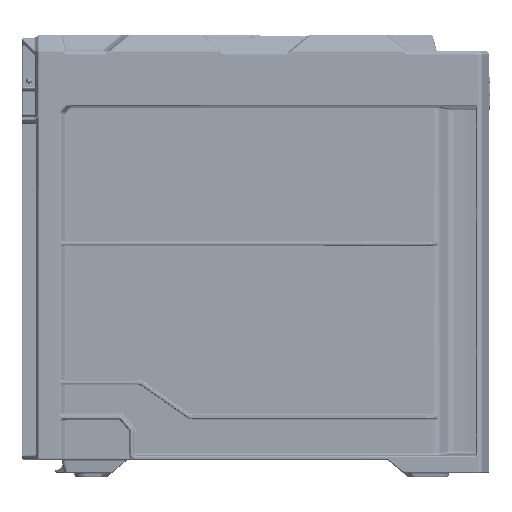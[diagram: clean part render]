
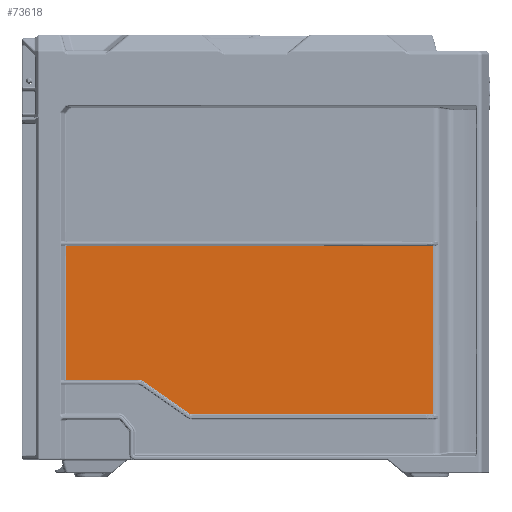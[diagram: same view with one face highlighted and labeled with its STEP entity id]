
A CAD part, left-side view. The second image highlights one B-rep face of the part: STEP entity #73618.
In plain terms, the highlighted planar face has unit normal (-1, 0, 0).
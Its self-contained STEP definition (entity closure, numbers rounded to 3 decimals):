
#48047=ELLIPSE('',#274290,7.503,7.5);
#48048=ELLIPSE('',#274291,4.502,4.5);
#53485=PLANE('',#274292);
#59514=FACE_OUTER_BOUND('',#100864,.T.);
#73618=ADVANCED_FACE('',(#59514),#53485,.T.);
#100864=EDGE_LOOP('',(#153531,#153532,#153533,#153534,#153535,#153536,#153537,
#153538));
#114854=LINE('',#417470,#127269);
#114855=LINE('',#417474,#127270);
#114856=LINE('',#417476,#127271);
#114857=LINE('',#417478,#127272);
#114858=LINE('',#417482,#127273);
#114859=LINE('',#417486,#127274);
#127269=VECTOR('',#304786,1.);
#127270=VECTOR('',#304791,1.);
#127271=VECTOR('',#304792,1.);
#127272=VECTOR('',#304793,1.);
#127273=VECTOR('',#304796,1.);
#127274=VECTOR('',#304799,1.);
#153531=ORIENTED_EDGE('',*,*,#234398,.T.);
#153532=ORIENTED_EDGE('',*,*,#234400,.T.);
#153533=ORIENTED_EDGE('',*,*,#234401,.T.);
#153534=ORIENTED_EDGE('',*,*,#234402,.T.);
#153535=ORIENTED_EDGE('',*,*,#234403,.T.);
#153536=ORIENTED_EDGE('',*,*,#234404,.T.);
#153537=ORIENTED_EDGE('',*,*,#234405,.T.);
#153538=ORIENTED_EDGE('',*,*,#234406,.T.);
#210557=VERTEX_POINT('',#417469);
#210558=VERTEX_POINT('',#417471);
#210559=VERTEX_POINT('',#417475);
#210560=VERTEX_POINT('',#417477);
#210561=VERTEX_POINT('',#417479);
#210562=VERTEX_POINT('',#417481);
#210563=VERTEX_POINT('',#417483);
#210564=VERTEX_POINT('',#417485);
#234398=EDGE_CURVE('',#210558,#210557,#114854,.T.);
#234400=EDGE_CURVE('',#210557,#210559,#114855,.T.);
#234401=EDGE_CURVE('',#210559,#210560,#114856,.T.);
#234402=EDGE_CURVE('',#210560,#210561,#114857,.T.);
#234403=EDGE_CURVE('',#210561,#210562,#48047,.T.);
#234404=EDGE_CURVE('',#210562,#210563,#114858,.T.);
#234405=EDGE_CURVE('',#210563,#210564,#48048,.T.);
#234406=EDGE_CURVE('',#210564,#210558,#114859,.T.);
#274290=AXIS2_PLACEMENT_3D('',#417480,#304794,#304795);
#274291=AXIS2_PLACEMENT_3D('',#417484,#304797,#304798);
#274292=AXIS2_PLACEMENT_3D('',#417487,#304800,#304801);
#304786=DIRECTION('',(0.,0.,1.));
#304791=DIRECTION('',(0.,1.,0.));
#304792=DIRECTION('',(0.,0.,-1.));
#304793=DIRECTION('',(0.,-1.,0.));
#304794=DIRECTION('',(1.,0.,0.));
#304795=DIRECTION('',(0.,-0.301,0.954));
#304796=DIRECTION('',(0.,-0.819,-0.574));
#304797=DIRECTION('',(-1.,0.,0.));
#304798=DIRECTION('',(0.,0.301,-0.954));
#304799=DIRECTION('',(0.,-1.,0.));
#304800=DIRECTION('',(-1.,0.,0.));
#304801=DIRECTION('',(0.,0.,-1.));
#417469=CARTESIAN_POINT('',(-242.5,-260.493,-98.618));
#417470=CARTESIAN_POINT('',(-242.5,-260.493,-230.969));
#417471=CARTESIAN_POINT('',(-242.5,-260.493,-205.382));
#417474=CARTESIAN_POINT('',(-242.5,-260.493,-98.618));
#417475=CARTESIAN_POINT('',(-242.5,-28.093,-98.618));
#417476=CARTESIAN_POINT('',(-242.5,-28.093,0.));
#417477=CARTESIAN_POINT('',(-242.5,-28.093,-183.382));
#417478=CARTESIAN_POINT('',(-242.5,0.,-183.382));
#417479=CARTESIAN_POINT('',(-242.5,-73.146,-183.382));
#417480=CARTESIAN_POINT('',(-242.5,-73.145,-190.885));
#417481=CARTESIAN_POINT('',(-242.5,-77.447,-184.738));
#417482=CARTESIAN_POINT('',(-242.5,61.319,-87.573));
#417483=CARTESIAN_POINT('',(-242.5,-105.768,-204.568));
#417484=CARTESIAN_POINT('',(-242.5,-108.349,-200.88));
#417485=CARTESIAN_POINT('',(-242.5,-108.348,-205.382));
#417486=CARTESIAN_POINT('',(-242.5,0.,-205.382));
#417487=CARTESIAN_POINT('',(-242.5,0.,0.));
